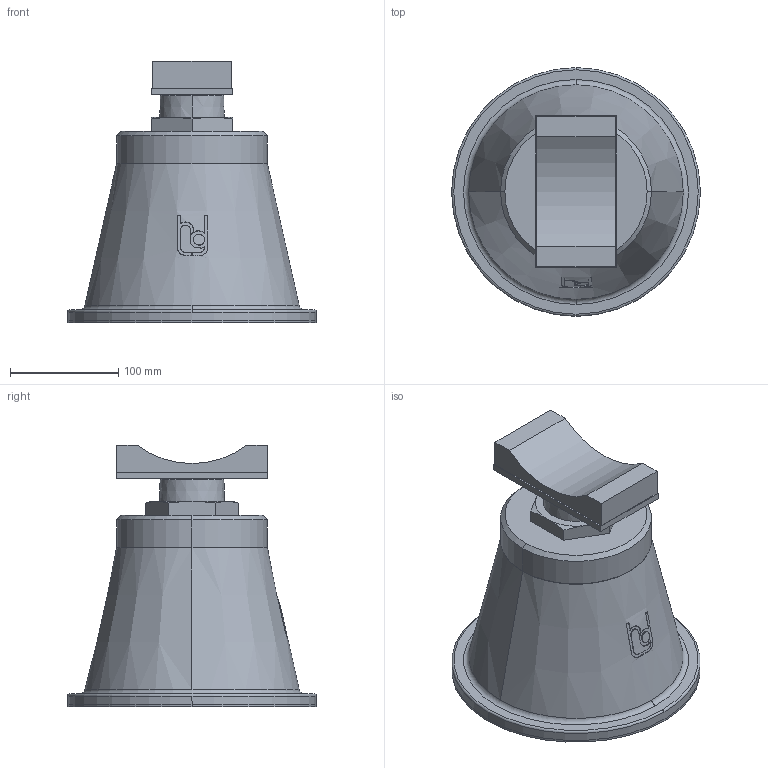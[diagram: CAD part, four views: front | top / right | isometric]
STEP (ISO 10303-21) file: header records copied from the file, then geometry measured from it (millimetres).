
FILE_DESCRIPTION(('STEP AP214'),'1');
FILE_NAME('RSRFN_DN150.stp','2018-06-29T12:45:20',(' '),(' '),'Spatial InterOp 3D',' ',' ');
FILE_SCHEMA(('automotive_design'));
Length unit declared in the file: millimetre
Products named in the file (6): 1; 2; 3; 4; 5; 6
Bounding box: 230 x 230 x 242 mm (x, y, z)
Volume: 4815509.8 mm3; surface area: 371494.4 mm2
Topology: 6 solids, 6 shells, 117 faces, 282 edges, 182 vertices
Faces by surface type: plane 49, cylinder 37, cone 23, torus 8
Entity records: 4852 total; most frequent: CARTESIAN_POINT 1045, DIRECTION 591, ORIENTED_EDGE 564, EDGE_CURVE 282, AXIS2_PLACEMENT_3D 228, VERTEX_POINT 182, LINE 135, VECTOR 135
